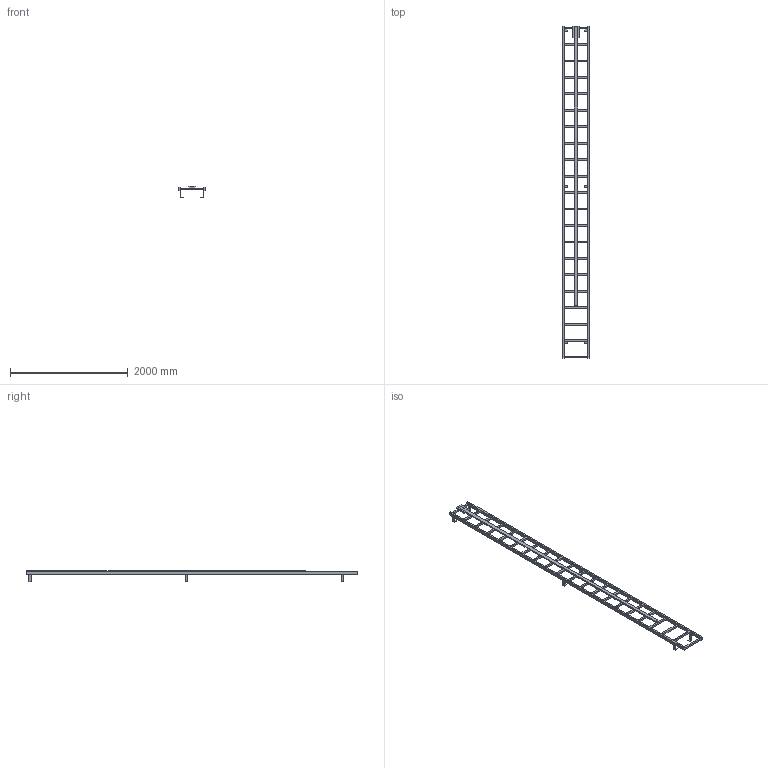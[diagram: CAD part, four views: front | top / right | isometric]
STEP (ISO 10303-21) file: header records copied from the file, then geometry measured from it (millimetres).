
FILE_DESCRIPTION((''),'2;1');
FILE_NAME('017_000109','2017-06-19T',('set'),('HUBER SE'),'PRO/ENGINEER BY PARAMETRIC TECHNOLOGY CORPORATION, 2015280','PRO/ENGINEER BY PARAMETRIC TECHNOLOGY CORPORATION, 2015280','');
FILE_SCHEMA(('CONFIG_CONTROL_DESIGN'));
Length unit declared in the file: millimetre
Products named in the file (1): 017_000109
Bounding box: 450 x 5650 x 195 mm (x, y, z)
Volume: 30517380 mm3; surface area: 3654420 mm2
Topology: 1 solids, 1 shells, 190 faces, 687 edges, 463 vertices
Faces by surface type: plane 190
Entity records: 7172 total; most frequent: CARTESIAN_POINT 1402, ORIENTED_EDGE 1172, DIRECTION 1064, VECTOR 640, LINE 640, EDGE_CURVE 586, VERTEX_POINT 362, EDGE_LOOP 226
